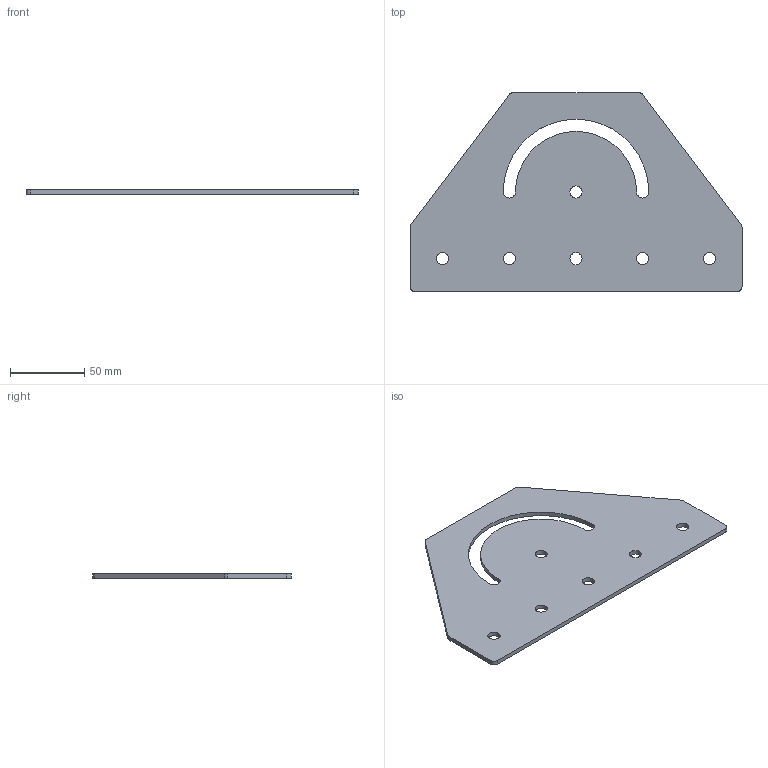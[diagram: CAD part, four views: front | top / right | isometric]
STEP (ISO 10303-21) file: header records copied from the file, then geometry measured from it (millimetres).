
FILE_DESCRIPTION (( 'STEP AP214' ), '1' );
FILE_NAME ('deg180s45.STEP', '2018-03-07T13:30:31', ( '' ), ( '' ), 'SwSTEP 2.0', 'SolidWorks 2014', '' );
FILE_SCHEMA (( 'AUTOMOTIVE_DESIGN' ));
Length unit declared in the file: millimetre
Products named in the file (2): deg180s45
Bounding box: 224 x 134 x 3 mm (x, y, z)
Volume: 67087.1 mm3; surface area: 47981.3 mm2
Topology: 1 solids, 1 shells, 30 faces, 84 edges, 56 vertices
Faces by surface type: cylinder 22, plane 8
Entity records: 1080 total; most frequent: DIRECTION 192, CARTESIAN_POINT 172, ORIENTED_EDGE 168, EDGE_CURVE 84, AXIS2_PLACEMENT_3D 76, VERTEX_POINT 56, EDGE_LOOP 44, CIRCLE 44
